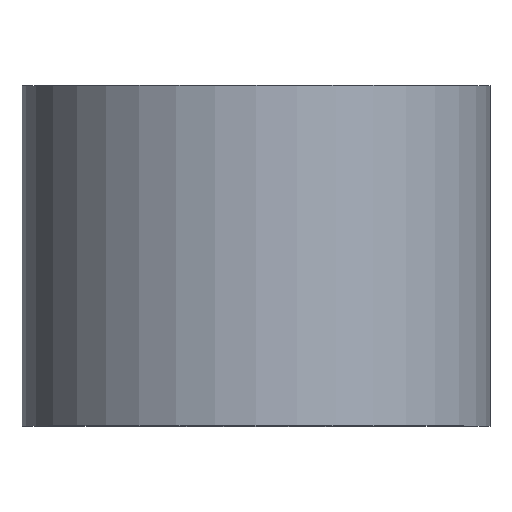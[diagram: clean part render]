
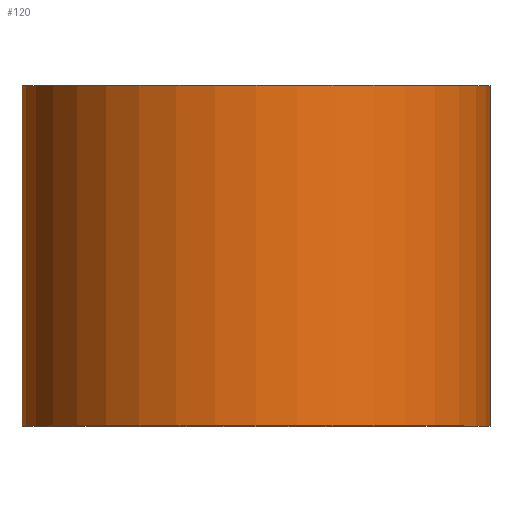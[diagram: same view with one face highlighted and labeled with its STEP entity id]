
A CAD part, top view. The second image highlights one B-rep face of the part: STEP entity #120.
In plain terms, the highlighted cylindrical face has radius 11 mm (diameter 22 mm), a partial arc.
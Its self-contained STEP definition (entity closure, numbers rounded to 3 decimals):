
#10 = CARTESIAN_POINT ( 'NONE',  ( 0., 16., 0. ) ) ;
#18 = CARTESIAN_POINT ( 'NONE',  ( 0., 0., 0. ) ) ;
#24 = ORIENTED_EDGE ( 'NONE', *, *, #154, .F. ) ;
#25 = AXIS2_PLACEMENT_3D ( 'NONE', #99, #53, #121 ) ;
#31 = DIRECTION ( 'NONE',  ( 0., 1., 0. ) ) ;
#47 = VERTEX_POINT ( 'NONE', #119 ) ;
#52 = EDGE_LOOP ( 'NONE', ( #112, #68, #24, #278 ) ) ;
#53 = DIRECTION ( 'NONE',  ( 0., 1., 0. ) ) ;
#56 = CARTESIAN_POINT ( 'NONE',  ( 11., 0., 0. ) ) ;
#59 = CYLINDRICAL_SURFACE ( 'NONE', #25, 11. ) ;
#66 = CIRCLE ( 'NONE', #213, 11. ) ;
#68 = ORIENTED_EDGE ( 'NONE', *, *, #248, .T. ) ;
#78 = DIRECTION ( 'NONE',  ( 0., 1., 0. ) ) ;
#99 = CARTESIAN_POINT ( 'NONE',  ( 0., 0., 0. ) ) ;
#108 = CIRCLE ( 'NONE', #201, 11. ) ;
#110 = EDGE_CURVE ( 'NONE', #47, #249, #283, .T. ) ;
#112 = ORIENTED_EDGE ( 'NONE', *, *, #204, .T. ) ;
#118 = DIRECTION ( 'NONE',  ( -1., 0., 0. ) ) ;
#119 = CARTESIAN_POINT ( 'NONE',  ( -11., 0., 0. ) ) ;
#120 = ADVANCED_FACE ( 'NONE', ( #272 ), #59, .T. ) ;
#121 = DIRECTION ( 'NONE',  ( -1., 0., 0. ) ) ;
#140 = VERTEX_POINT ( 'NONE', #186 ) ;
#151 = DIRECTION ( 'NONE',  ( -1., 0., 0. ) ) ;
#154 = EDGE_CURVE ( 'NONE', #249, #140, #108, .T. ) ;
#160 = VERTEX_POINT ( 'NONE', #56 ) ;
#170 = CARTESIAN_POINT ( 'NONE',  ( -11., 16., 0. ) ) ;
#176 = VECTOR ( 'NONE', #31, 1000. ) ;
#180 = VECTOR ( 'NONE', #245, 1000. ) ;
#186 = CARTESIAN_POINT ( 'NONE',  ( 11., 16., 0. ) ) ;
#193 = DIRECTION ( 'NONE',  ( 0., 1., 0. ) ) ;
#201 = AXIS2_PLACEMENT_3D ( 'NONE', #10, #78, #118 ) ;
#204 = EDGE_CURVE ( 'NONE', #47, #160, #66, .T. ) ;
#213 = AXIS2_PLACEMENT_3D ( 'NONE', #18, #193, #151 ) ;
#220 = LINE ( 'NONE', #296, #180 ) ;
#236 = CARTESIAN_POINT ( 'NONE',  ( -11., 0., 0. ) ) ;
#245 = DIRECTION ( 'NONE',  ( 0., 1., 0. ) ) ;
#248 = EDGE_CURVE ( 'NONE', #160, #140, #220, .T. ) ;
#249 = VERTEX_POINT ( 'NONE', #170 ) ;
#272 = FACE_OUTER_BOUND ( 'NONE', #52, .T. ) ;
#278 = ORIENTED_EDGE ( 'NONE', *, *, #110, .F. ) ;
#283 = LINE ( 'NONE', #236, #176 ) ;
#296 = CARTESIAN_POINT ( 'NONE',  ( 11., 0., 0. ) ) ;
